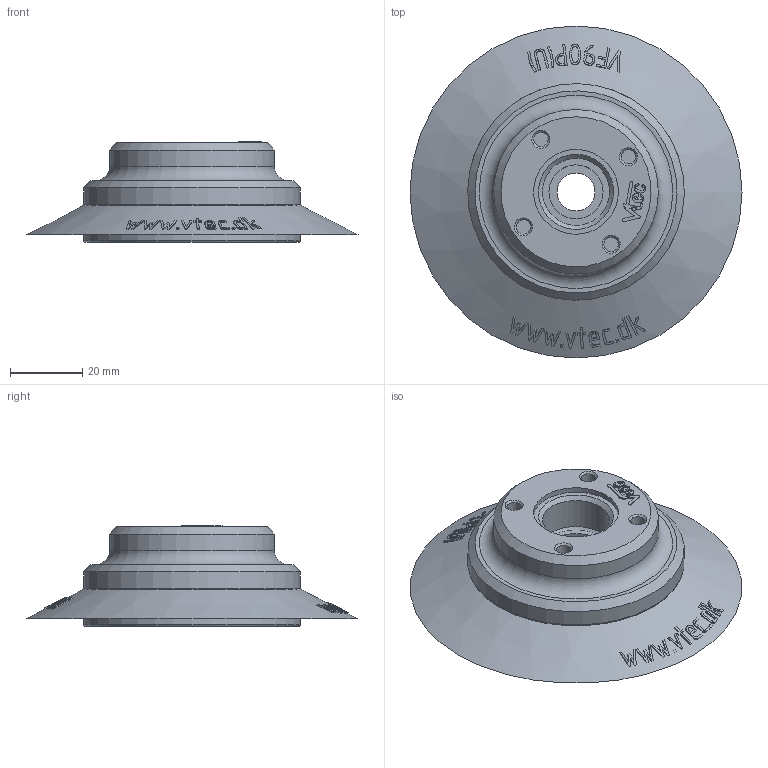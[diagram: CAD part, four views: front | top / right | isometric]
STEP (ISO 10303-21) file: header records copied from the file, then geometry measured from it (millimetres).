
FILE_DESCRIPTION( ( 'STEP AP203' ), '1' );
FILE_NAME( 'C:/Documents and Settings/Owner/官帕 拳搁/3D/Vacuum Pad/VF series/VF90-12F.stp', '2006-04-25T04:59:13', ( ' ' ), ( ' ' ), 'XStep 1.0', ' ', ' ' );
FILE_SCHEMA( ( 'CONFIG_CONTROL_DESIGN) ( )' ) );
Length unit declared in the file: metre
Products named in the file (3): Assem1; 1; 2
Bounding box: 92 x 92 x 27.85 mm (x, y, z)
Volume: 95465.1 mm3; surface area: 52830.9 mm2
Topology: 4 solids, 4 shells, 1240 faces, 3358 edges, 2216 vertices
Faces by surface type: plane 574, cylinder 298, bspline 284, cone 72, torus 8, extrusion 4
Full cylindrical faces by diameter (mm): 0.791 x2, 4 x16, 6.4 x8, 10.5 x2, 15 x2, 18.6 x2, 23.5 x2, 45.6 x2, 55 x4, 60 x2
Entity records: 27139 total; most frequent: CARTESIAN_POINT 12342, ORIENTED_EDGE 3258, DIRECTION 2603, EDGE_CURVE 1629, VERTEX_POINT 1097, VECTOR 935, LINE 933, AXIS2_PLACEMENT_3D 834
